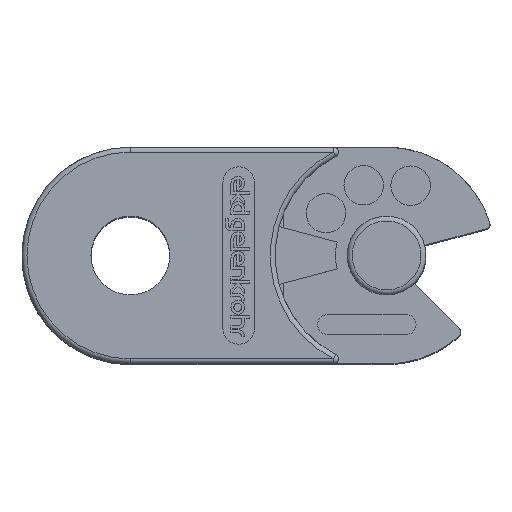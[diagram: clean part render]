
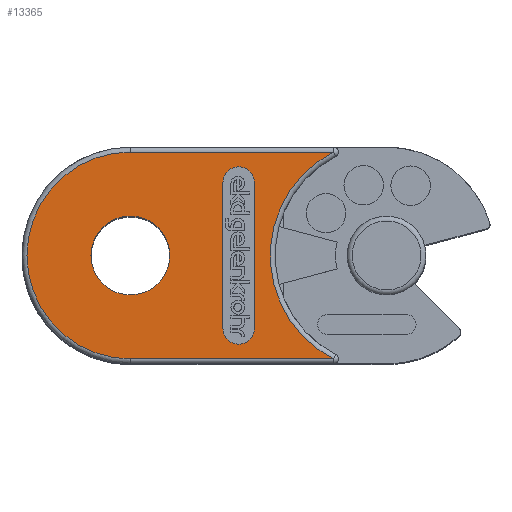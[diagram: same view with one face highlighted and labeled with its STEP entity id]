
A CAD part, top view. The second image highlights one B-rep face of the part: STEP entity #13365.
In plain terms, the highlighted planar face has unit normal (0, 0, 1).
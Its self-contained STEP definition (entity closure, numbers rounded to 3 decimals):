
#13012=CARTESIAN_POINT('',(168.864,167.574,5.6));
#13013=VERTEX_POINT('',#13012);
#13021=CARTESIAN_POINT('',(148.248,167.574,5.6));
#13022=VERTEX_POINT('',#13021);
#13023=CARTESIAN_POINT('',(168.864,167.574,5.6));
#13024=DIRECTION('',(-1.0,0.0,0.0));
#13025=VECTOR('',#13024,20.616);
#13026=LINE('',#13023,#13025);
#13027=EDGE_CURVE('',#13013,#13022,#13026,.T.);
#13045=CARTESIAN_POINT('',(148.248,188.574,5.6));
#13046=VERTEX_POINT('',#13045);
#13062=CARTESIAN_POINT('',(148.248,178.074,5.6));
#13063=DIRECTION('',(0.0,0.0,-1.0));
#13064=DIRECTION('',(-1.0,0.0,0.0));
#13065=AXIS2_PLACEMENT_3D('',#13062,#13063,#13064);
#13066=CIRCLE('',#13065,10.5);
#13067=EDGE_CURVE('',#13022,#13046,#13066,.T.);
#13077=CARTESIAN_POINT('',(168.864,188.574,5.6));
#13078=VERTEX_POINT('',#13077);
#13088=CARTESIAN_POINT('',(148.248,188.574,5.6));
#13089=DIRECTION('',(1.0,0.0,0.0));
#13090=VECTOR('',#13089,20.616);
#13091=LINE('',#13088,#13090);
#13092=EDGE_CURVE('',#13046,#13078,#13091,.T.);
#13127=CARTESIAN_POINT('',(174.248,178.074,5.6));
#13128=DIRECTION('',(0.0,0.0,1.0));
#13129=DIRECTION('',(-1.0,0.0,0.0));
#13130=AXIS2_PLACEMENT_3D('',#13127,#13128,#13129);
#13131=CIRCLE('',#13130,11.8);
#13132=EDGE_CURVE('',#13078,#13013,#13131,.T.);
#13307=CARTESIAN_POINT('',(161.768,178.104,5.6));
#13308=DIRECTION('',(0.0,0.0,1.0));
#13309=DIRECTION('',(1.0,0.0,0.0));
#13310=AXIS2_PLACEMENT_3D('',#13307,#13308,#13309);
#13311=PLANE('',#13310);
#13312=ORIENTED_EDGE('',*,*,#13027,.F.);
#13313=ORIENTED_EDGE('',*,*,#13132,.F.);
#13314=ORIENTED_EDGE('',*,*,#13092,.F.);
#13315=ORIENTED_EDGE('',*,*,#13067,.F.);
#13316=EDGE_LOOP('',(#13312,#13313,#13314,#13315));
#13317=FACE_OUTER_BOUND('',#13316,.T.);
#13318=CARTESIAN_POINT('',(152.248,178.074,5.6));
#13319=VERTEX_POINT('',#13318);
#13320=CARTESIAN_POINT('',(148.248,178.074,5.6));
#13321=DIRECTION('',(0.0,0.0,-1.0));
#13322=DIRECTION('',(-1.0,0.0,0.0));
#13323=AXIS2_PLACEMENT_3D('',#13320,#13321,#13322);
#13324=CIRCLE('',#13323,4.0);
#13325=EDGE_CURVE('',#13319,#13319,#13324,.T.);
#13326=ORIENTED_EDGE('',*,*,#13325,.T.);
#13327=EDGE_LOOP('',(#13326));
#13328=FACE_BOUND('',#13327,.T.);
#13329=CARTESIAN_POINT('',(157.648,185.474,5.6));
#13330=VERTEX_POINT('',#13329);
#13331=CARTESIAN_POINT('',(160.848,185.474,5.6));
#13332=VERTEX_POINT('',#13331);
#13333=CARTESIAN_POINT('',(159.248,185.474,5.6));
#13334=DIRECTION('',(0.0,0.0,-1.0));
#13335=DIRECTION('',(-1.0,0.0,0.0));
#13336=AXIS2_PLACEMENT_3D('',#13333,#13334,#13335);
#13337=CIRCLE('',#13336,1.6);
#13338=EDGE_CURVE('',#13330,#13332,#13337,.T.);
#13339=ORIENTED_EDGE('',*,*,#13338,.T.);
#13340=CARTESIAN_POINT('',(160.848,170.674,5.6));
#13341=VERTEX_POINT('',#13340);
#13342=CARTESIAN_POINT('',(160.848,185.474,5.6));
#13343=DIRECTION('',(0.0,-1.0,0.0));
#13344=VECTOR('',#13343,14.8);
#13345=LINE('',#13342,#13344);
#13346=EDGE_CURVE('',#13332,#13341,#13345,.T.);
#13347=ORIENTED_EDGE('',*,*,#13346,.T.);
#13348=CARTESIAN_POINT('',(157.648,170.674,5.6));
#13349=VERTEX_POINT('',#13348);
#13350=CARTESIAN_POINT('',(159.248,170.674,5.6));
#13351=DIRECTION('',(0.0,0.0,-1.0));
#13352=DIRECTION('',(1.0,0.0,0.0));
#13353=AXIS2_PLACEMENT_3D('',#13350,#13351,#13352);
#13354=CIRCLE('',#13353,1.6);
#13355=EDGE_CURVE('',#13341,#13349,#13354,.T.);
#13356=ORIENTED_EDGE('',*,*,#13355,.T.);
#13357=CARTESIAN_POINT('',(157.648,170.674,5.6));
#13358=DIRECTION('',(0.0,1.0,0.0));
#13359=VECTOR('',#13358,14.8);
#13360=LINE('',#13357,#13359);
#13361=EDGE_CURVE('',#13349,#13330,#13360,.T.);
#13362=ORIENTED_EDGE('',*,*,#13361,.T.);
#13363=EDGE_LOOP('',(#13339,#13347,#13356,#13362));
#13364=FACE_BOUND('',#13363,.T.);
#13365=ADVANCED_FACE('',(#13317,#13328,#13364),#13311,.T.);
